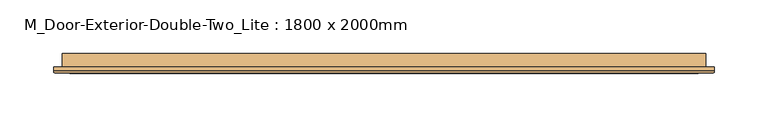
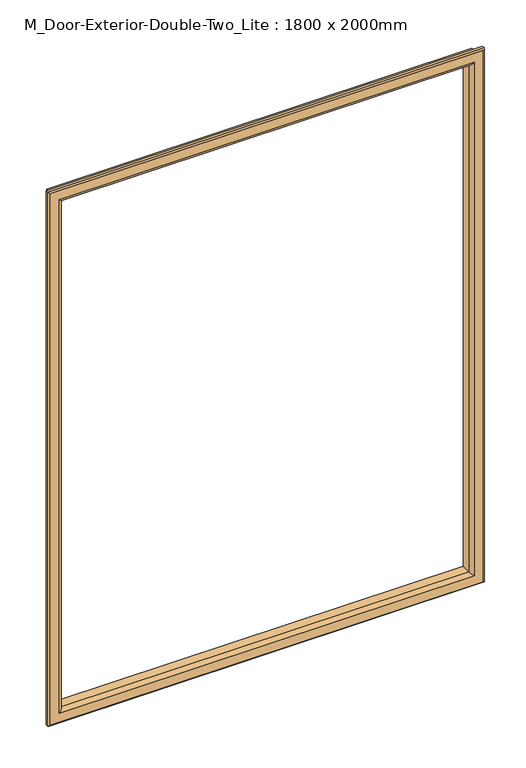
"""IFC4 building model written with IfcOpenShell, lengths in millimetres: door geometry, M_Door-Exterior-Double-Two_Lite : 1800 x 2000mm."""

from ifc_helpers import new_model, si_unit, frame, origin, place, context, project, spatial, ellipse_curve, source, transform, mapped, element, save
from ifc_brep_helpers import plane_surface, cylinder_surface, advanced_brep


def m_door_exterior_double_two_lite_1800_x_2000mm_bafab08d(model_context):
    return source(origin(), model_context, "Body", "AdvancedBrep", [
        advanced_brep(
        [(-750.0, 48.85, 1100.0), (-750.0, 36.35, 1100.0), (-750.0, 36.35, 1880.0), (-750.0, 48.85, 1880.0), (-738.0, 35.35, 1112.0), (-738.0, 48.85, 1112.0), (-738.0, 48.85, 1868.0), (-738.0, 35.35, 1868.0), (-743.0, 30.35, 1107.0), (-743.0, 30.35, 1873.0), (-758.0, 32.35, 1092.0), (-756.0, 30.35, 1094.0), (-756.0, 30.35, 1886.0), (-758.0, 32.35, 1888.0), (-758.0, 36.35, 1092.0), (-758.0, 36.35, 1888.0), (-150.0, 36.35, 1880.0), (-150.0, 48.85, 1880.0), (-162.0, 48.85, 1868.0), (-162.0, 35.35, 1868.0), (-157.0, 30.35, 1873.0), (-144.0, 30.35, 1886.0), (-142.0, 32.35, 1888.0), (-142.0, 36.35, 1888.0), (-150.0, 36.35, 1100.0), (-150.0, 48.85, 1100.0), (-162.0, 48.85, 1112.0), (-162.0, 35.35, 1112.0), (-157.0, 30.35, 1107.0), (-144.0, 30.35, 1094.0), (-142.0, 32.35, 1092.0), (-142.0, 36.35, 1092.0)],
        [
            (0, 1),
            (1, 2),
            (2, 3),
            (3, 0),
            (4, 5),
            (5, 6),
            (6, 7),
            (7, 4),
            (8, 4, ellipse_curve(frame((-743.0, 35.35, 1107.0), z_axis=(-0.7071067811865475, 0.0, 0.7071067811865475), x_axis=(-0.7071067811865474, 0.0, -0.7071067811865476)), 7.0710678, 5.0)),
            (7, 9, ellipse_curve(frame((-743.0, 35.35, 1873.0), z_axis=(-0.7071067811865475, 0.0, -0.7071067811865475), x_axis=(0.7071067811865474, 0.0, -0.7071067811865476)), 7.0710678, 5.0)),
            (9, 8),
            (10, 11, ellipse_curve(frame((-756.0, 32.35, 1094.0), z_axis=(-0.7071067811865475, 0.0, 0.7071067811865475), x_axis=(-0.7071067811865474, 0.0, -0.7071067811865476)), 2.8284271, 2.0)),
            (11, 12),
            (12, 13, ellipse_curve(frame((-756.0, 32.35, 1886.0), z_axis=(-0.7071067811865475, 0.0, -0.7071067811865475), x_axis=(0.7071067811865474, 0.0, -0.7071067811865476)), 2.8284271, 2.0)),
            (13, 10),
            (14, 10),
            (13, 15),
            (15, 14),
            (2, 16),
            (16, 17),
            (17, 3),
            (6, 18),
            (18, 19),
            (19, 7),
            (19, 20, ellipse_curve(frame((-157.0, 35.35, 1873.0), z_axis=(-0.7071067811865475, 0.0, 0.7071067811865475), x_axis=(-0.7071067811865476, 0.0, -0.7071067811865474)), 7.0710678, 5.0)),
            (20, 9),
            (12, 21),
            (21, 22, ellipse_curve(frame((-144.0, 32.35, 1886.0), z_axis=(-0.7071067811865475, 0.0, 0.7071067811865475), x_axis=(-0.7071067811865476, 0.0, -0.7071067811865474)), 2.8284271, 2.0)),
            (22, 13),
            (22, 23),
            (23, 15),
            (16, 24),
            (24, 25),
            (25, 17),
            (18, 26),
            (26, 27),
            (27, 19),
            (27, 28, ellipse_curve(frame((-157.0, 35.35, 1107.0), z_axis=(0.7071067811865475, 0.0, 0.7071067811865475), x_axis=(-0.7071067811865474, 0.0, 0.7071067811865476)), 7.0710678, 5.0)),
            (28, 20),
            (21, 29),
            (29, 30, ellipse_curve(frame((-144.0, 32.35, 1094.0), z_axis=(0.7071067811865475, 0.0, 0.7071067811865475), x_axis=(-0.7071067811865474, 0.0, 0.7071067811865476)), 2.8284271, 2.0)),
            (30, 22),
            (30, 31),
            (31, 23),
            (31, 14),
            (1, 24),
            (0, 25),
            (5, 26),
            (4, 27),
            (8, 28),
            (11, 29),
            (10, 30),
        ],
        [
            plane_surface(frame((-750.0, 36.35, 1100.0), z_axis=(-1.0, 0.0, 0.0), x_axis=(0.0, 0.0, 1.0))),
            plane_surface(frame((-738.0, 48.85, 1112.0), z_axis=(1.0, 0.0, 0.0), x_axis=(0.0, 0.0, 1.0))),
            cylinder_surface(frame((-743.0, 35.35, 1100.0), z_axis=(0.0, 0.0, -1.0), x_axis=(-1.0, 0.0, 0.0)), 5.0),
            cylinder_surface(frame((-756.0, 32.35, 1100.0), z_axis=(0.0, 0.0, -1.0), x_axis=(-1.0, 0.0, 0.0)), 2.0),
            plane_surface(frame((-758.0, 32.35, 1092.0), z_axis=(-1.0, 0.0, 0.0), x_axis=(0.0, 0.0, 1.0))),
            plane_surface(frame((-750.0, 36.35, 1880.0), z_axis=(0.0, 0.0, 1.0), x_axis=(1.0, 0.0, 0.0))),
            plane_surface(frame((-738.0, 48.85, 1868.0), z_axis=(0.0, 0.0, -1.0), x_axis=(1.0, 0.0, 0.0))),
            cylinder_surface(frame((-750.0, 35.35, 1873.0), z_axis=(-1.0, 0.0, 0.0), x_axis=(0.0, 0.0, 1.0)), 5.0),
            cylinder_surface(frame((-750.0, 32.35, 1886.0), z_axis=(-1.0, 0.0, 0.0), x_axis=(0.0, 0.0, 1.0)), 2.0),
            plane_surface(frame((-758.0, 32.35, 1888.0), z_axis=(0.0, 0.0, 1.0), x_axis=(1.0, 0.0, 0.0))),
            plane_surface(frame((-150.0, 36.35, 1880.0), z_axis=(1.0, 0.0, 0.0), x_axis=(0.0, 0.0, -1.0))),
            plane_surface(frame((-162.0, 48.85, 1868.0), z_axis=(-1.0, 0.0, 0.0), x_axis=(0.0, 0.0, -1.0))),
            cylinder_surface(frame((-157.0, 35.35, 1880.0), z_axis=(0.0, 0.0, 1.0), x_axis=(1.0, 0.0, 0.0)), 5.0),
            cylinder_surface(frame((-144.0, 32.35, 1880.0), z_axis=(0.0, 0.0, 1.0), x_axis=(1.0, 0.0, 0.0)), 2.0),
            plane_surface(frame((-142.0, 32.35, 1888.0), z_axis=(1.0, 0.0, 0.0), x_axis=(0.0, 0.0, -1.0))),
            plane_surface(frame((-142.0, 36.35, 1092.0), z_axis=(0.0, 1.0, 0.0), x_axis=(-1.0, 0.0, 0.0))),
            plane_surface(frame((-150.0, 36.35, 1100.0), z_axis=(0.0, 0.0, -1.0), x_axis=(-1.0, 0.0, 0.0))),
            plane_surface(frame((-150.0, 48.85, 1100.0), z_axis=(0.0, 1.0, 0.0), x_axis=(-1.0, 0.0, 0.0))),
            plane_surface(frame((-162.0, 48.85, 1112.0), z_axis=(0.0, 0.0, 1.0), x_axis=(-1.0, 0.0, 0.0))),
            cylinder_surface(frame((-150.0, 35.35, 1107.0), z_axis=(1.0, 0.0, 0.0), x_axis=(0.0, 0.0, -1.0)), 5.0),
            plane_surface(frame((-157.0, 30.35, 1107.0), z_axis=(0.0, -1.0, 0.0), x_axis=(-1.0, 0.0, 0.0))),
            cylinder_surface(frame((-150.0, 32.35, 1094.0), z_axis=(1.0, 0.0, 0.0), x_axis=(0.0, 0.0, -1.0)), 2.0),
            plane_surface(frame((-142.0, 32.35, 1092.0), z_axis=(0.0, 0.0, -1.0), x_axis=(-1.0, 0.0, 0.0))),
        ],
        [
            (0, [[1, 2, 3, 4]]),
            (1, [[5, 6, 7, 8]]),
            (2, [[9, -8, 10, 11]]),
            (3, [[12, 13, 14, 15]]),
            (4, [[16, -15, 17, 18]]),
            (5, [[-3, 19, 20, 21]]),
            (6, [[-7, 22, 23, 24]]),
            (7, [[-10, -24, 25, 26]]),
            (8, [[-14, 27, 28, 29]]),
            (9, [[-17, -29, 30, 31]]),
            (10, [[-20, 32, 33, 34]]),
            (11, [[-23, 35, 36, 37]]),
            (12, [[-25, -37, 38, 39]]),
            (13, [[-28, 40, 41, 42]]),
            (14, [[-30, -42, 43, 44]]),
            (15, [[-31, -44, 45, -18], [46, -32, -19, -2]]),
            (16, [[-33, -46, -1, 47]]),
            (17, [[-21, -34, -47, -4], [48, -35, -22, -6]]),
            (18, [[-36, -48, -5, 49]]),
            (19, [[-38, -49, -9, 50]]),
            (20, [[51, -40, -27, -13], [-26, -39, -50, -11]]),
            (21, [[-41, -51, -12, 52]]),
            (22, [[-43, -52, -16, -45]]),
        ],
    ),
    ])


if __name__ == "__main__":
    model = new_model("IFC4")
    model_context = context("Model", 3, world=origin())
    ifc_project = project(units=[si_unit("LENGTHUNIT", "METRE", prefix="MILLI")], contexts=[model_context])
    site = spatial("IfcSite", under=ifc_project)
    building = spatial("IfcBuilding", under=site)
    placement = place(None, origin())
    m_door_exterior_double_two_lite_1800_x_2000mm_shape = m_door_exterior_double_two_lite_1800_x_2000mm_bafab08d(model_context)
    element("IfcDoor", 1, ObjectType="M_Door-Exterior-Double-Two_Lite : 1800 x 2000mm", at=placement, inside=building, context=model_context, shape_type="MappedRepresentation", body=[
        mapped(m_door_exterior_double_two_lite_1800_x_2000mm_shape, transform((0.0, 0.0, 0.0), x_axis=(1.0, 0.0, 0.0), y_axis=(0.0, 1.0, 0.0), z_axis=(0.0, 0.0, 1.0))),
    ])
    save(model, "model.ifc")
